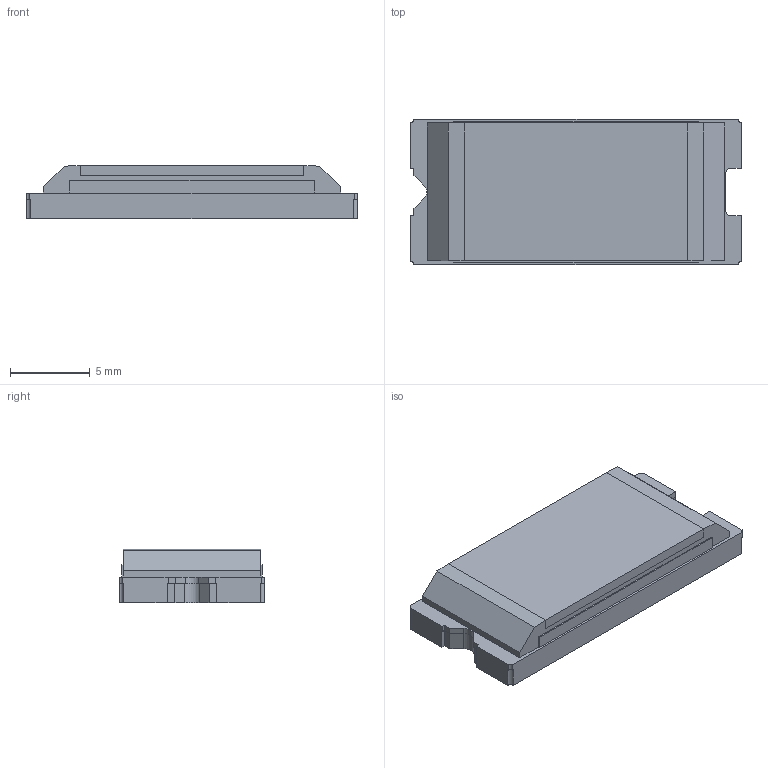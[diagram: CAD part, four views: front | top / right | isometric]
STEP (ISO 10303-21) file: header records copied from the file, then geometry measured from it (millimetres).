
FILE_DESCRIPTION((''),'2;1');
FILE_NAME('C:\Work\Series310\s310-CAD\s310-DMD\S310-WXGA--STEP-Assy-base.stp','2010-07-30T18:05:52',('a0130832'),(''),'Autodesk Inventor 2011','Autodesk Inventor 2011','');
FILE_SCHEMA(('AUTOMOTIVE_DESIGN { 1 0 10303 214 1 1 1 1 }'));
Length unit declared in the file: millimetre
Products named in the file (3): S310-WXGA--STEP-Assy-base.iam (LevelofDetail2); S310-WXGA-STEP-pkg; S310-STEP-window
Assembly tree (2 placements, depth 2):
  S310-WXGA--STEP-Assy-base.iam (LevelofDetail2)
    S310-WXGA-STEP-pkg
    S310-STEP-window
Bounding box: 20.7 x 9.1 x 3.33 mm (x, y, z)
Volume: 518.3 mm3; surface area: 896.8 mm2
Topology: 2 solids, 2 shells, 92 faces, 249 edges, 166 vertices
Faces by surface type: plane 73, cylinder 19
Full cylindrical faces by diameter (mm): 0.04 x1
Entity records: 3051 total; most frequent: CARTESIAN_POINT 511, ORIENTED_EDGE 496, DIRECTION 480, EDGE_CURVE 248, VECTOR 210, LINE 210, VERTEX_POINT 166, AXIS2_PLACEMENT_3D 135
